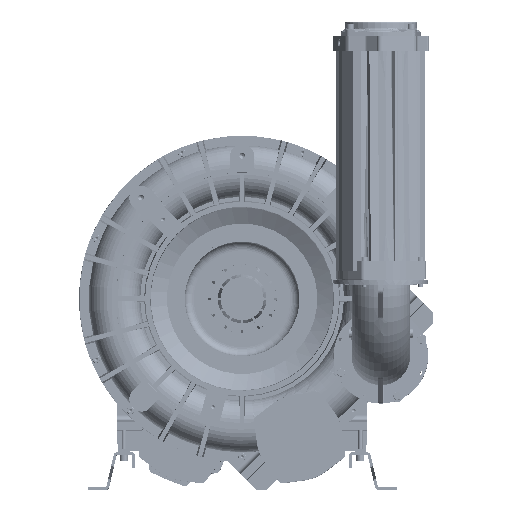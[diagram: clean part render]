
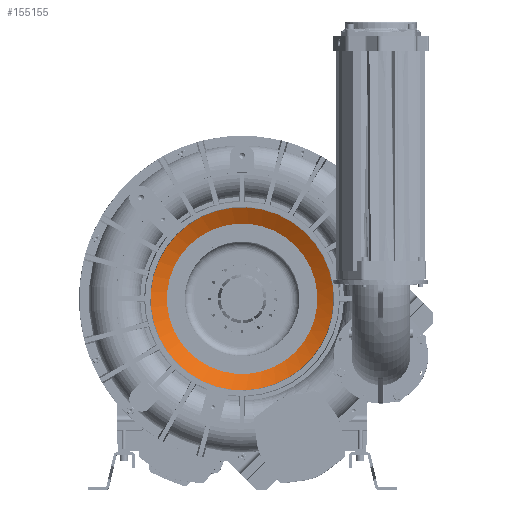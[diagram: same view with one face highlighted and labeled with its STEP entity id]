
A CAD part, top view. The second image highlights one B-rep face of the part: STEP entity #155155.
In plain terms, the highlighted conical face has half-angle 62 degrees and reference radius 131.023 mm.
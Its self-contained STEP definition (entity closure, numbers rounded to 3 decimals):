
#6915 = FACE_BOUND ( 'NONE', #227495, .T. ) ;
#10938 = CARTESIAN_POINT ( 'NONE',  ( -112.584, -112.584, 470.991 ) ) ;
#28974 = DIRECTION ( 'NONE',  ( -0.707, -0.707, 0. ) ) ;
#40291 = CONICAL_SURFACE ( 'NONE', #310427, 131.023, 1.082 ) ;
#56888 = AXIS2_PLACEMENT_3D ( 'NONE', #186120, #265526, #28974 ) ;
#78897 = CIRCLE ( 'NONE', #56888, 159.217 ) ;
#112368 = CARTESIAN_POINT ( 'NONE',  ( -92.648, -92.648, 456. ) ) ;
#117447 = ORIENTED_EDGE ( 'NONE', *, *, #226332, .F. ) ;
#140564 = EDGE_LOOP ( 'NONE', ( #173544 ) ) ;
#155155 = ADVANCED_FACE ( 'NONE', ( #169120, #6915 ), #40291, .F. ) ;
#169120 = FACE_OUTER_BOUND ( 'NONE', #140564, .T. ) ;
#173544 = ORIENTED_EDGE ( 'NONE', *, *, #200744, .F. ) ;
#186120 = CARTESIAN_POINT ( 'NONE',  ( 0., 0., 470.991 ) ) ;
#200744 = EDGE_CURVE ( 'NONE', #247519, #247519, #78897, .T. ) ;
#226332 = EDGE_CURVE ( 'NONE', #238568, #238568, #339019, .T. ) ;
#227495 = EDGE_LOOP ( 'NONE', ( #117447 ) ) ;
#233988 = DIRECTION ( 'NONE',  ( 0., 0., 1. ) ) ;
#234302 = AXIS2_PLACEMENT_3D ( 'NONE', #289141, #233988, #237368 ) ;
#237368 = DIRECTION ( 'NONE',  ( -0.707, -0.707, 0. ) ) ;
#238568 = VERTEX_POINT ( 'NONE', #112368 ) ;
#246898 = CARTESIAN_POINT ( 'NONE',  ( 0., 0., 456. ) ) ;
#247519 = VERTEX_POINT ( 'NONE', #10938 ) ;
#265526 = DIRECTION ( 'NONE',  ( 0., 0., -1. ) ) ;
#289141 = CARTESIAN_POINT ( 'NONE',  ( 0., 0., 456. ) ) ;
#303747 = DIRECTION ( 'NONE',  ( 0.707, 0.707, 0. ) ) ;
#310427 = AXIS2_PLACEMENT_3D ( 'NONE', #246898, #322845, #303747 ) ;
#322845 = DIRECTION ( 'NONE',  ( 0., 0., 1. ) ) ;
#339019 = CIRCLE ( 'NONE', #234302, 131.023 ) ;
